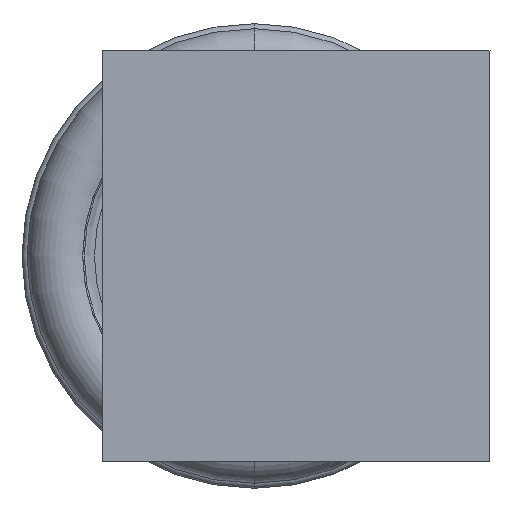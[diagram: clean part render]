
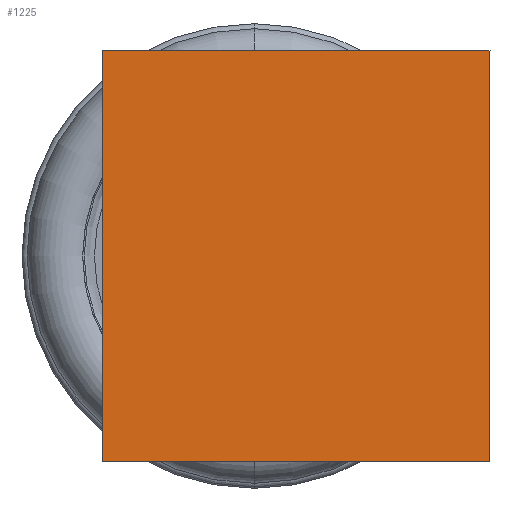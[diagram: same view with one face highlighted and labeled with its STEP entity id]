
A CAD part, left-side view. The second image highlights one B-rep face of the part: STEP entity #1225.
In plain terms, the highlighted planar face has unit normal (-1, 0, 0).
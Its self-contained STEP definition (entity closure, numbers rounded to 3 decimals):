
#30 = CARTESIAN_POINT ( 'NONE',  ( -140., -6.999, 6.1 ) ) ;
#334 = VERTEX_POINT ( 'NONE', #30 ) ;
#442 = VERTEX_POINT ( 'NONE', #652 ) ;
#518 = DIRECTION ( 'NONE',  ( 0., 1., 0. ) ) ;
#577 = PLANE ( 'NONE',  #2651 ) ;
#602 = LINE ( 'NONE', #2360, #1982 ) ;
#652 = CARTESIAN_POINT ( 'NONE',  ( -140., 4.5, -6.1 ) ) ;
#785 = VECTOR ( 'NONE', #1538, 1000. ) ;
#850 = CARTESIAN_POINT ( 'NONE',  ( -140., -6.999, 0. ) ) ;
#1075 = EDGE_CURVE ( 'NONE', #2677, #442, #2145, .T. ) ;
#1077 = FACE_OUTER_BOUND ( 'NONE', #2917, .T. ) ;
#1225 = ADVANCED_FACE ( 'NONE', ( #1077 ), #577, .T. ) ;
#1263 = CARTESIAN_POINT ( 'NONE',  ( -140., -15., 6.1 ) ) ;
#1400 = CARTESIAN_POINT ( 'NONE',  ( -140., 4.5, 6.1 ) ) ;
#1402 = EDGE_CURVE ( 'NONE', #2677, #334, #2344, .T. ) ;
#1538 = DIRECTION ( 'NONE',  ( 0., 1., 0. ) ) ;
#1561 = VECTOR ( 'NONE', #518, 1000. ) ;
#1592 = DIRECTION ( 'NONE',  ( 0., -1., 0. ) ) ;
#1651 = EDGE_CURVE ( 'NONE', #334, #1978, #2934, .T. ) ;
#1860 = DIRECTION ( 'NONE',  ( 0., 0., 1. ) ) ;
#1978 = VERTEX_POINT ( 'NONE', #1400 ) ;
#1982 = VECTOR ( 'NONE', #1860, 1000. ) ;
#2079 = CARTESIAN_POINT ( 'NONE',  ( -140., -6.999, -6.1 ) ) ;
#2145 = LINE ( 'NONE', #3318, #785 ) ;
#2147 = DIRECTION ( 'NONE',  ( 0., 0., 1. ) ) ;
#2199 = EDGE_CURVE ( 'NONE', #442, #1978, #602, .T. ) ;
#2210 = ORIENTED_EDGE ( 'NONE', *, *, #1651, .T. ) ;
#2344 = LINE ( 'NONE', #850, #2969 ) ;
#2360 = CARTESIAN_POINT ( 'NONE',  ( -140., 4.5, -15. ) ) ;
#2386 = DIRECTION ( 'NONE',  ( -1., 0., 0. ) ) ;
#2651 = AXIS2_PLACEMENT_3D ( 'NONE', #2895, #2386, #1592 ) ;
#2677 = VERTEX_POINT ( 'NONE', #2079 ) ;
#2775 = ORIENTED_EDGE ( 'NONE', *, *, #1402, .T. ) ;
#2895 = CARTESIAN_POINT ( 'NONE',  ( -140., 0., 0. ) ) ;
#2917 = EDGE_LOOP ( 'NONE', ( #3291, #2922, #2775, #2210 ) ) ;
#2922 = ORIENTED_EDGE ( 'NONE', *, *, #1075, .F. ) ;
#2934 = LINE ( 'NONE', #1263, #1561 ) ;
#2969 = VECTOR ( 'NONE', #2147, 1000. ) ;
#3291 = ORIENTED_EDGE ( 'NONE', *, *, #2199, .F. ) ;
#3318 = CARTESIAN_POINT ( 'NONE',  ( -140., -15., -6.1 ) ) ;
